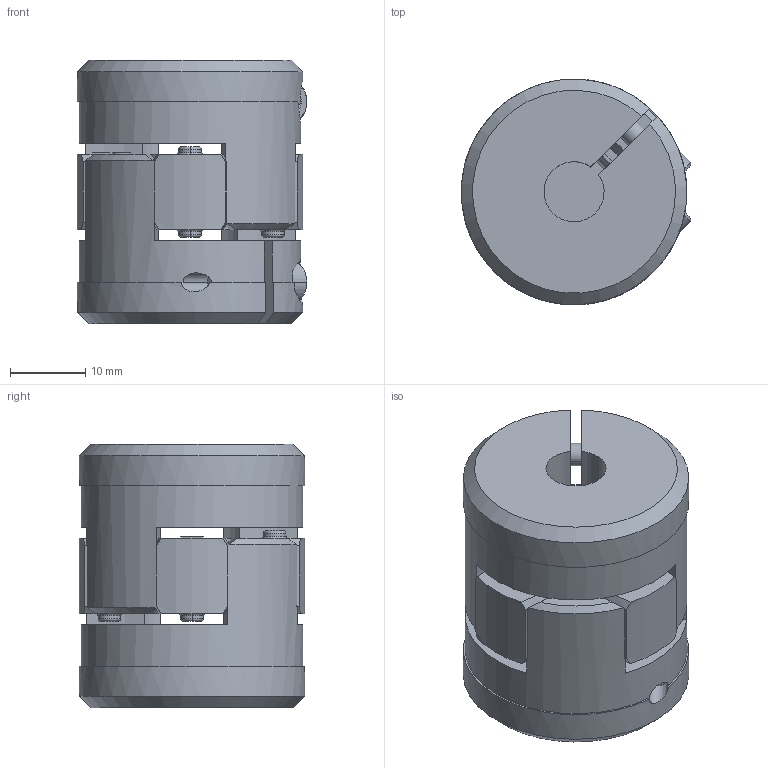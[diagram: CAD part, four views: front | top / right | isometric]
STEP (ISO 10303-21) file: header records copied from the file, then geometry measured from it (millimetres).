
FILE_DESCRIPTION((''),'2;1');
FILE_NAME('ROBA-ES__SIZE_14_TYPE_940_000','2021-05-11T11:00:29',('procad'),('Chr. Mayr GmbH + Co. KG'),'CREO PARAMETRIC BY PTC INC, 2019471','CREO PARAMETRIC BY PTC INC, 2019471','');
FILE_SCHEMA(('CONFIG_CONTROL_DESIGN','SHAPE_APPEARANCE_LAYERS_GROUPS'));
Length unit declared in the file: millimetre
Products named in the file (1): ROBA-ES__SIZE_14_TYPE_940_000
Bounding box: 30.52 x 30 x 35 mm (x, y, z)
Volume: 19808.2 mm3; surface area: 8617 mm2
Topology: 1 solids, 1 shells, 316 faces, 843 edges, 530 vertices
Faces by surface type: plane 154, cylinder 76, cone 58, torus 28
Entity records: 12744 total; most frequent: CARTESIAN_POINT 2400, ORIENTED_EDGE 1678, DIRECTION 1651, EDGE_CURVE 839, AXIS2_PLACEMENT_3D 610, VERTEX_POINT 530, VECTOR 431, LINE 431
